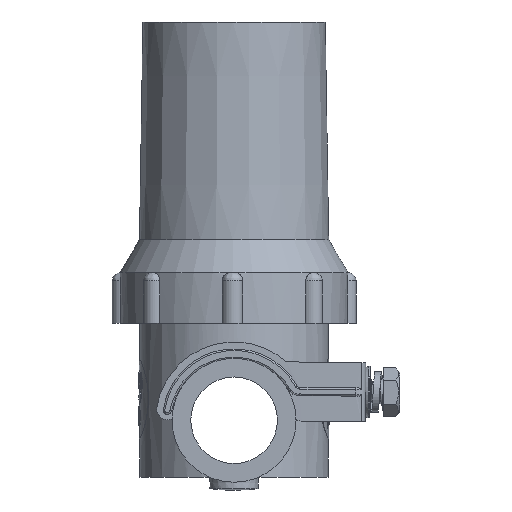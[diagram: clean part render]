
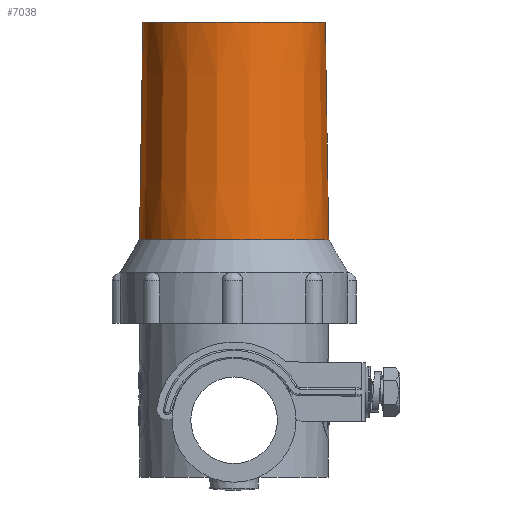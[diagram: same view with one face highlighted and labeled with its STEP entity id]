
A CAD part, left-side view. The second image highlights one B-rep face of the part: STEP entity #7038.
In plain terms, the highlighted conical face has half-angle 0.9 degrees and reference radius 28.843 mm.
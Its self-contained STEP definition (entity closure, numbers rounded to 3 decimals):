
#48=CONICAL_SURFACE('',#7564,28.843,0.016);
#493=CIRCLE('',#7565,28.843);
#494=CIRCLE('',#7566,27.8);
#495=CIRCLE('',#7567,27.8);
#496=CIRCLE('',#7568,28.843);
#981=FACE_OUTER_BOUND('',#1370,.T.);
#1370=EDGE_LOOP('',(#5852,#5853,#5854,#5855,#5856,#5857));
#1797=LINE('',#25152,#2201);
#2201=VECTOR('',#8785,28.843);
#3182=VERTEX_POINT('',#25148);
#3183=VERTEX_POINT('',#25149);
#3184=VERTEX_POINT('',#25151);
#3185=VERTEX_POINT('',#25153);
#4215=EDGE_CURVE('',#3182,#3183,#493,.T.);
#4216=EDGE_CURVE('',#3183,#3184,#1797,.T.);
#4217=EDGE_CURVE('',#3185,#3184,#494,.T.);
#4218=EDGE_CURVE('',#3184,#3185,#495,.T.);
#4219=EDGE_CURVE('',#3183,#3182,#496,.T.);
#5852=ORIENTED_EDGE('',*,*,#4215,.T.);
#5853=ORIENTED_EDGE('',*,*,#4216,.T.);
#5854=ORIENTED_EDGE('',*,*,#4217,.F.);
#5855=ORIENTED_EDGE('',*,*,#4218,.F.);
#5856=ORIENTED_EDGE('',*,*,#4216,.F.);
#5857=ORIENTED_EDGE('',*,*,#4219,.T.);
#7038=ADVANCED_FACE('',(#981),#48,.T.);
#7564=AXIS2_PLACEMENT_3D('',#25147,#8781,#8782);
#7565=AXIS2_PLACEMENT_3D('',#25150,#8783,#8784);
#7566=AXIS2_PLACEMENT_3D('',#25154,#8786,#8787);
#7567=AXIS2_PLACEMENT_3D('',#25155,#8788,#8789);
#7568=AXIS2_PLACEMENT_3D('',#25156,#8790,#8791);
#8781=DIRECTION('center_axis',(0.,0.,
-1.));
#8782=DIRECTION('ref_axis',(-0.014,-1.,0.));
#8783=DIRECTION('center_axis',(0.,0.,
1.));
#8784=DIRECTION('ref_axis',(0.014,1.,0.));
#8785=DIRECTION('',(0.,-0.016,1.));
#8786=DIRECTION('center_axis',(0.,0.,
1.));
#8787=DIRECTION('ref_axis',(0.014,1.,0.));
#8788=DIRECTION('center_axis',(0.,0.,
1.));
#8789=DIRECTION('ref_axis',(0.014,1.,0.));
#8790=DIRECTION('center_axis',(0.,0.,
1.));
#8791=DIRECTION('ref_axis',(0.014,1.,0.));
#25147=CARTESIAN_POINT('Origin',(-14.62,22.842,135.307));
#25148=CARTESIAN_POINT('',(-15.024,-5.998,135.307));
#25149=CARTESIAN_POINT('',(-14.215,51.682,135.307));
#25150=CARTESIAN_POINT('Origin',(-14.62,22.842,135.307));
#25151=CARTESIAN_POINT('',(-14.23,50.639,201.707));
#25152=CARTESIAN_POINT('',(-14.215,51.682,135.307));
#25153=CARTESIAN_POINT('',(-15.009,-4.955,201.707));
#25154=CARTESIAN_POINT('Origin',(-14.62,22.842,201.707));
#25155=CARTESIAN_POINT('Origin',(-14.62,22.842,201.707));
#25156=CARTESIAN_POINT('Origin',(-14.62,22.842,135.307));
